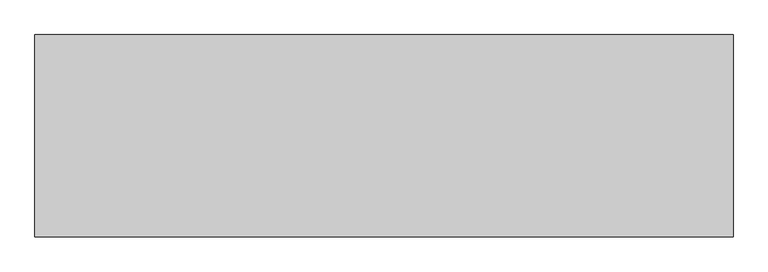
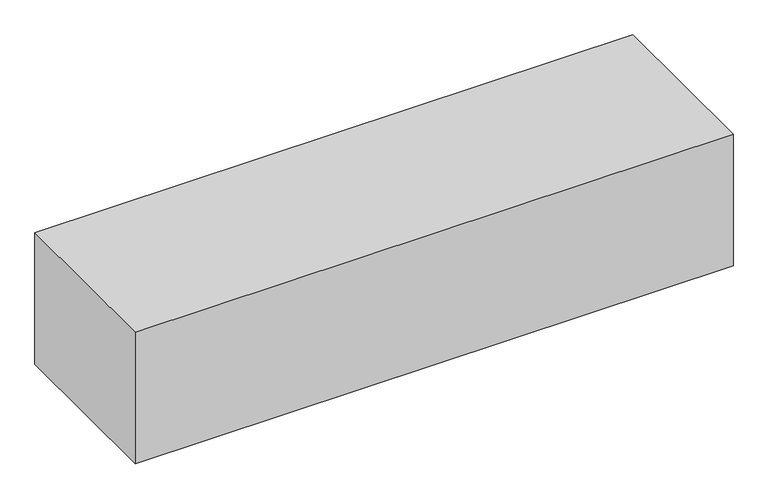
"""IFC4 building model written with IfcOpenShell, lengths in millimetres: geographic element geometry, r 低木密植 : 低木密植."""

from ifc_helpers import new_model, si_unit, origin, origin_with_axes, place, context, project, spatial, polyline, outline, extrude, source, transform, mapped, element, save


def geographic_element_d164ea4d(model_context):
    return source(origin(), model_context, "Body", "SweptSolid", [
        extrude(outline(polyline([(0.0, 0.0), (0.0, 500.0), (1724.9252326, 500.0), (1724.9252326, 0.0), (0.0, 0.0)])), origin_with_axes(), (0.0, 0.0, 1.0), 400.0),
    ])


if __name__ == "__main__":
    model = new_model("IFC4")
    model_context = context("Model", 3, world=origin())
    ifc_project = project(units=[si_unit("LENGTHUNIT", "METRE", prefix="MILLI")], contexts=[model_context])
    site = spatial("IfcSite", under=ifc_project)
    building = spatial("IfcBuilding", under=site)
    placement = place(None, origin())
    geographic_element_shape = geographic_element_d164ea4d(model_context)
    element("IfcGeographicElement", 1, ObjectType="r 低木密植 : 低木密植", at=placement, inside=building, context=model_context, shape_type="MappedRepresentation", body=[
        mapped(geographic_element_shape, transform((0.0, 0.0, 0.0), x_axis=(1.0, 0.0, 0.0), y_axis=(0.0, 1.0, 0.0), z_axis=(0.0, 0.0, 1.0))),
    ])
    save(model, "model.ifc")
